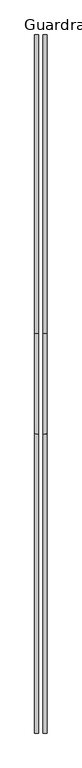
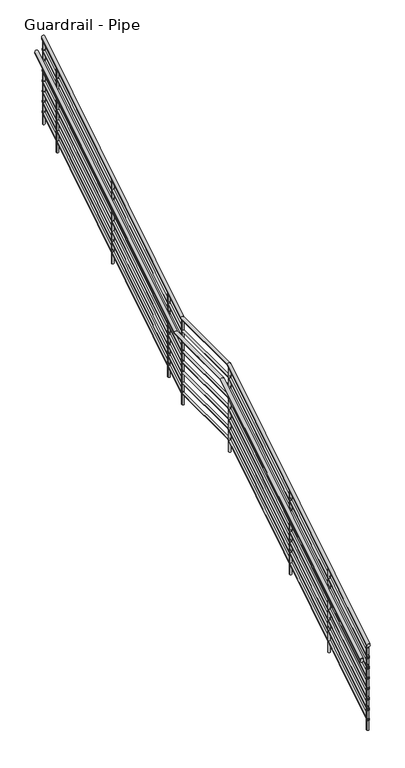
"""IFC4 building model written with IfcOpenShell, lengths in millimetres: railing geometry, Guardrail - Pipe."""

from ifc_helpers import new_model, si_unit, point, frame, frame_2d, origin, place, context, project, spatial, circle_curve, ellipse_curve, trimmed, segment, composite_curve, outline, extrude, source, transform, mapped, element, save
from ifc_brep_helpers import plane_surface, cylinder_surface, advanced_brep


def guardrail_pipe_ee13584f(model_context):
    return source(origin(), model_context, "Body", "SolidModel", [
        advanced_brep(
        [(-3304.9939612, -3668.290357, 1218.5231361), (-3343.0939612, -3668.290357, 1218.5231361), (-3304.9939612, -868.8389295, 2963.6357143), (-3343.0939612, -868.8389295, 2963.6357143), (-3304.9939612, 70.9610705, 2963.6357143), (-3343.0939612, 70.9610705, 2963.6357143), (-3304.9939612, 2859.509643, 4701.9517075), (-3343.0939612, 2859.509643, 4701.9517075)],
        [
            (0, 1, ellipse_curve(frame((-3324.0439612, -3668.290357, 1218.5231361), z_axis=(0.0, -1.0, 0.0), x_axis=(0.0, 0.0, -1.0)), 22.4482925, 19.05)),
            (1, 0, ellipse_curve(frame((-3324.0439612, -3668.290357, 1218.5231361), z_axis=(0.0, -1.0, 0.0), x_axis=(0.0, 0.0, -1.0)), 22.4482925, 19.05)),
            (0, 2),
            (2, 3, ellipse_curve(frame((-3324.0439612, -868.8389295, 2963.6357143), z_axis=(0.0, -0.9614096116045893, -0.2751209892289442), x_axis=(0.0, 0.27512098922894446, -0.9614096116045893)), 19.8146552, 19.05)),
            (3, 1),
            (3, 2, ellipse_curve(frame((-3324.0439612, -868.8389295, 2963.6357143), z_axis=(0.0, -0.9614096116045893, -0.2751209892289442), x_axis=(0.0, 0.27512098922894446, -0.9614096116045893)), 19.8146552, 19.05)),
            (2, 4),
            (4, 5, ellipse_curve(frame((-3324.0439612, 70.9610705, 2963.6357143), z_axis=(0.0, -0.9614096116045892, -0.2751209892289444), x_axis=(0.0, -0.27512098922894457, 0.9614096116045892)), 19.8146552, 19.05)),
            (5, 3),
            (5, 4, ellipse_curve(frame((-3324.0439612, 70.9610705, 2963.6357143), z_axis=(0.0, -0.9614096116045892, -0.2751209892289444), x_axis=(0.0, -0.27512098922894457, 0.9614096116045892)), 19.8146552, 19.05)),
            (6, 7, ellipse_curve(frame((-3324.0439612, 2859.509643, 4701.9517075), z_axis=(0.0, 1.0, 0.0), x_axis=(0.0, 0.0, -1.0)), 22.4482925, 19.05)),
            (7, 6, ellipse_curve(frame((-3324.0439612, 2859.509643, 4701.9517075), z_axis=(0.0, 1.0, 0.0), x_axis=(0.0, 0.0, -1.0)), 22.4482925, 19.05)),
            (4, 6),
            (7, 5),
        ],
        [
            plane_surface(frame((-3324.0439612, -3668.290357, 1240.9714286), z_axis=(0.0, -1.0, 0.0), x_axis=(0.0, 0.0, 1.0))),
            cylinder_surface(frame((-3324.0439612, -3658.212756, 1224.805277), z_axis=(0.0, -0.8486168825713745, -0.5290079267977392), x_axis=(-1.0, 0.0, 0.0)), 19.05),
            cylinder_surface(frame((-3324.0439612, -874.290357, 2963.6357143), z_axis=(0.0, -1.0, 0.0), x_axis=(-1.0, 0.0, 0.0)), 19.05),
            plane_surface(frame((-3324.0439612, 2859.509643, 4724.4), z_axis=(0.0, 1.0, 0.0), x_axis=(0.0, 0.0, 1.0))),
            cylinder_surface(frame((-3324.0439612, 75.587244, 2966.5195627), z_axis=(0.0, -0.8486168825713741, -0.5290079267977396), x_axis=(-1.0, 0.0, 0.0)), 19.05),
        ],
        [
            (0, [[1, 2]]),
            (1, [[-1, 3, 4, 5]]),
            (1, [[-2, -5, 6, -3]]),
            (2, [[-4, 7, 8, 9]]),
            (2, [[-6, -9, 10, -7]]),
            (3, [[11, 12]]),
            (4, [[-8, 13, -12, 14]]),
            (4, [[-10, -14, -11, -13]]),
        ],
    ),
        advanced_brep(
        [(-3311.3439612, -3668.290357, 1073.6059002), (-3336.7439612, -3668.290357, 1073.6059002), (-3311.3439612, -870.656072, 2817.5857143), (-3336.7439612, -870.656072, 2817.5857143), (-3311.3439612, 69.143928, 2817.5857143), (-3336.7439612, 69.143928, 2817.5857143), (-3311.3439612, 2859.509643, 4557.0344717), (-3336.7439612, 2859.509643, 4557.0344717)],
        [
            (0, 1, ellipse_curve(frame((-3324.0439612, -3668.290357, 1073.6059002), z_axis=(0.0, -1.0, 0.0), x_axis=(0.0, 0.0, -1.0)), 14.9655283, 12.7)),
            (1, 0, ellipse_curve(frame((-3324.0439612, -3668.290357, 1073.6059002), z_axis=(0.0, -1.0, 0.0), x_axis=(0.0, 0.0, -1.0)), 14.9655283, 12.7)),
            (0, 2),
            (2, 3, ellipse_curve(frame((-3324.0439612, -870.656072, 2817.5857143), z_axis=(0.0, -0.9614096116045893, -0.2751209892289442), x_axis=(0.0, 0.27512098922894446, -0.9614096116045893)), 13.2097702, 12.7)),
            (3, 1),
            (3, 2, ellipse_curve(frame((-3324.0439612, -870.656072, 2817.5857143), z_axis=(0.0, -0.9614096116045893, -0.2751209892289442), x_axis=(0.0, 0.27512098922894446, -0.9614096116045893)), 13.2097702, 12.7)),
            (2, 4),
            (4, 5, ellipse_curve(frame((-3324.0439612, 69.143928, 2817.5857143), z_axis=(0.0, -0.9614096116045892, -0.2751209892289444), x_axis=(0.0, -0.27512098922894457, 0.9614096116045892)), 13.2097702, 12.7)),
            (5, 3),
            (5, 4, ellipse_curve(frame((-3324.0439612, 69.143928, 2817.5857143), z_axis=(0.0, -0.9614096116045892, -0.2751209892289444), x_axis=(0.0, -0.27512098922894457, 0.9614096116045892)), 13.2097702, 12.7)),
            (6, 7, ellipse_curve(frame((-3324.0439612, 2859.509643, 4557.0344717), z_axis=(0.0, 1.0, 0.0), x_axis=(0.0, 0.0, -1.0)), 14.9655283, 12.7)),
            (7, 6, ellipse_curve(frame((-3324.0439612, 2859.509643, 4557.0344717), z_axis=(0.0, 1.0, 0.0), x_axis=(0.0, 0.0, -1.0)), 14.9655283, 12.7)),
            (4, 6),
            (7, 5),
        ],
        [
            plane_surface(frame((-3324.0439612, -3668.290357, 1088.5714286), z_axis=(0.0, -1.0, 0.0), x_axis=(0.0, 0.0, 1.0))),
            cylinder_surface(frame((-3324.0439612, -3661.5719564, 1077.7939942), z_axis=(0.0, -0.8486168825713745, -0.5290079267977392), x_axis=(-1.0, 0.0, 0.0)), 12.7),
            cylinder_surface(frame((-3324.0439612, -874.290357, 2817.5857143), z_axis=(0.0, -1.0, 0.0), x_axis=(-1.0, 0.0, 0.0)), 12.7),
            plane_surface(frame((-3324.0439612, 2859.509643, 4572.0), z_axis=(0.0, 1.0, 0.0), x_axis=(0.0, 0.0, 1.0))),
            cylinder_surface(frame((-3324.0439612, 72.2280436, 2819.5082799), z_axis=(0.0, -0.8486168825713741, -0.5290079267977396), x_axis=(-1.0, 0.0, 0.0)), 12.7),
        ],
        [
            (0, [[1, 2]]),
            (1, [[-1, 3, 4, 5]]),
            (1, [[-2, -5, 6, -3]]),
            (2, [[-4, 7, 8, 9]]),
            (2, [[-6, -9, 10, -7]]),
            (3, [[11, 12]]),
            (4, [[-8, 13, -12, 14]]),
            (4, [[-10, -14, -11, -13]]),
        ],
    ),
        advanced_brep(
        [(-3381.1939612, -3668.290357, 1066.1231361), (-3419.2939612, -3668.290357, 1066.1231361), (-3381.1939612, -868.8389295, 2811.2357143), (-3419.2939612, -868.8389295, 2811.2357143), (-3381.1939612, 70.9610705, 2811.2357143), (-3419.2939612, 70.9610705, 2811.2357143), (-3381.1939612, 2859.509643, 4549.5517075), (-3419.2939612, 2859.509643, 4549.5517075)],
        [
            (0, 1, ellipse_curve(frame((-3400.2439612, -3668.290357, 1066.1231361), z_axis=(0.0, -1.0, 0.0), x_axis=(0.0, 0.0, -1.0)), 22.4482925, 19.05)),
            (1, 0, ellipse_curve(frame((-3400.2439612, -3668.290357, 1066.1231361), z_axis=(0.0, -1.0, 0.0), x_axis=(0.0, 0.0, -1.0)), 22.4482925, 19.05)),
            (0, 2),
            (2, 3, ellipse_curve(frame((-3400.2439612, -868.8389295, 2811.2357143), z_axis=(0.0, -0.9614096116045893, -0.2751209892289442), x_axis=(0.0, 0.27512098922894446, -0.9614096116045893)), 19.8146552, 19.05)),
            (3, 1),
            (3, 2, ellipse_curve(frame((-3400.2439612, -868.8389295, 2811.2357143), z_axis=(0.0, -0.9614096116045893, -0.2751209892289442), x_axis=(0.0, 0.27512098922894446, -0.9614096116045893)), 19.8146552, 19.05)),
            (2, 4),
            (4, 5, ellipse_curve(frame((-3400.2439612, 70.9610705, 2811.2357143), z_axis=(0.0, -0.9614096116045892, -0.2751209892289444), x_axis=(0.0, -0.27512098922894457, 0.9614096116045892)), 19.8146552, 19.05)),
            (5, 3),
            (5, 4, ellipse_curve(frame((-3400.2439612, 70.9610705, 2811.2357143), z_axis=(0.0, -0.9614096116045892, -0.2751209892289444), x_axis=(0.0, -0.27512098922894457, 0.9614096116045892)), 19.8146552, 19.05)),
            (6, 7, ellipse_curve(frame((-3400.2439612, 2859.509643, 4549.5517075), z_axis=(0.0, 1.0, 0.0), x_axis=(0.0, 0.0, -1.0)), 22.4482925, 19.05)),
            (7, 6, ellipse_curve(frame((-3400.2439612, 2859.509643, 4549.5517075), z_axis=(0.0, 1.0, 0.0), x_axis=(0.0, 0.0, -1.0)), 22.4482925, 19.05)),
            (4, 6),
            (7, 5),
        ],
        [
            plane_surface(frame((-3400.2439612, -3668.290357, 1088.5714286), z_axis=(0.0, -1.0, 0.0), x_axis=(0.0, 0.0, 1.0))),
            cylinder_surface(frame((-3400.2439612, -3658.212756, 1072.405277), z_axis=(0.0, -0.8486168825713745, -0.5290079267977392), x_axis=(-1.0, 0.0, 0.0)), 19.05),
            cylinder_surface(frame((-3400.2439612, -874.290357, 2811.2357143), z_axis=(0.0, -1.0, 0.0), x_axis=(-1.0, 0.0, 0.0)), 19.05),
            plane_surface(frame((-3400.2439612, 2859.509643, 4572.0), z_axis=(0.0, 1.0, 0.0), x_axis=(0.0, 0.0, 1.0))),
            cylinder_surface(frame((-3400.2439612, 75.587244, 2814.1195627), z_axis=(0.0, -0.8486168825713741, -0.5290079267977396), x_axis=(-1.0, 0.0, 0.0)), 19.05),
        ],
        [
            (0, [[1, 2]]),
            (1, [[-1, 3, 4, 5]]),
            (1, [[-2, -5, 6, -3]]),
            (2, [[-4, 7, 8, 9]]),
            (2, [[-6, -9, 10, -7]]),
            (3, [[11, 12]]),
            (4, [[-8, 13, -12, 14]]),
            (4, [[-10, -14, -11, -13]]),
        ],
    ),
        advanced_brep(
        [(-3311.3439612, -3668.290357, 946.6059002), (-3336.7439612, -3668.290357, 946.6059002), (-3311.3439612, -870.656072, 2690.5857143), (-3336.7439612, -870.656072, 2690.5857143), (-3311.3439612, 69.143928, 2690.5857143), (-3336.7439612, 69.143928, 2690.5857143), (-3311.3439612, 2859.509643, 4430.0344717), (-3336.7439612, 2859.509643, 4430.0344717)],
        [
            (0, 1, ellipse_curve(frame((-3324.0439612, -3668.290357, 946.6059002), z_axis=(0.0, -1.0, 0.0), x_axis=(0.0, 0.0, -1.0)), 14.9655283, 12.7)),
            (1, 0, ellipse_curve(frame((-3324.0439612, -3668.290357, 946.6059002), z_axis=(0.0, -1.0, 0.0), x_axis=(0.0, 0.0, -1.0)), 14.9655283, 12.7)),
            (0, 2),
            (2, 3, ellipse_curve(frame((-3324.0439612, -870.656072, 2690.5857143), z_axis=(0.0, -0.9614096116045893, -0.2751209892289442), x_axis=(0.0, 0.27512098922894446, -0.9614096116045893)), 13.2097702, 12.7)),
            (3, 1),
            (3, 2, ellipse_curve(frame((-3324.0439612, -870.656072, 2690.5857143), z_axis=(0.0, -0.9614096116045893, -0.2751209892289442), x_axis=(0.0, 0.27512098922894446, -0.9614096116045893)), 13.2097702, 12.7)),
            (2, 4),
            (4, 5, ellipse_curve(frame((-3324.0439612, 69.143928, 2690.5857143), z_axis=(0.0, -0.9614096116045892, -0.2751209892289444), x_axis=(0.0, -0.27512098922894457, 0.9614096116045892)), 13.2097702, 12.7)),
            (5, 3),
            (5, 4, ellipse_curve(frame((-3324.0439612, 69.143928, 2690.5857143), z_axis=(0.0, -0.9614096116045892, -0.2751209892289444), x_axis=(0.0, -0.27512098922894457, 0.9614096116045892)), 13.2097702, 12.7)),
            (6, 7, ellipse_curve(frame((-3324.0439612, 2859.509643, 4430.0344717), z_axis=(0.0, 1.0, 0.0), x_axis=(0.0, 0.0, -1.0)), 14.9655283, 12.7)),
            (7, 6, ellipse_curve(frame((-3324.0439612, 2859.509643, 4430.0344717), z_axis=(0.0, 1.0, 0.0), x_axis=(0.0, 0.0, -1.0)), 14.9655283, 12.7)),
            (4, 6),
            (7, 5),
        ],
        [
            plane_surface(frame((-3324.0439612, -3668.290357, 961.5714286), z_axis=(0.0, -1.0, 0.0), x_axis=(0.0, 0.0, 1.0))),
            cylinder_surface(frame((-3324.0439612, -3661.5719564, 950.7939942), z_axis=(0.0, -0.8486168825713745, -0.5290079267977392), x_axis=(-1.0, 0.0, 0.0)), 12.7),
            cylinder_surface(frame((-3324.0439612, -874.290357, 2690.5857143), z_axis=(0.0, -1.0, 0.0), x_axis=(-1.0, 0.0, 0.0)), 12.7),
            plane_surface(frame((-3324.0439612, 2859.509643, 4445.0), z_axis=(0.0, 1.0, 0.0), x_axis=(0.0, 0.0, 1.0))),
            cylinder_surface(frame((-3324.0439612, 72.2280436, 2692.5082799), z_axis=(0.0, -0.8486168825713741, -0.5290079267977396), x_axis=(-1.0, 0.0, 0.0)), 12.7),
        ],
        [
            (0, [[1, 2]]),
            (1, [[-1, 3, 4, 5]]),
            (1, [[-2, -5, 6, -3]]),
            (2, [[-4, 7, 8, 9]]),
            (2, [[-6, -9, 10, -7]]),
            (3, [[11, 12]]),
            (4, [[-8, 13, -12, 14]]),
            (4, [[-10, -14, -11, -13]]),
        ],
    ),
        advanced_brep(
        [(-3311.3439612, -3668.290357, 819.6059002), (-3336.7439612, -3668.290357, 819.6059002), (-3311.3439612, -870.656072, 2563.5857143), (-3336.7439612, -870.656072, 2563.5857143), (-3311.3439612, 69.143928, 2563.5857143), (-3336.7439612, 69.143928, 2563.5857143), (-3311.3439612, 2859.509643, 4303.0344717), (-3336.7439612, 2859.509643, 4303.0344717)],
        [
            (0, 1, ellipse_curve(frame((-3324.0439612, -3668.290357, 819.6059002), z_axis=(0.0, -1.0, 0.0), x_axis=(0.0, 0.0, -1.0)), 14.9655283, 12.7)),
            (1, 0, ellipse_curve(frame((-3324.0439612, -3668.290357, 819.6059002), z_axis=(0.0, -1.0, 0.0), x_axis=(0.0, 0.0, -1.0)), 14.9655283, 12.7)),
            (0, 2),
            (2, 3, ellipse_curve(frame((-3324.0439612, -870.656072, 2563.5857143), z_axis=(0.0, -0.9614096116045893, -0.2751209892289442), x_axis=(0.0, 0.27512098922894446, -0.9614096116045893)), 13.2097702, 12.7)),
            (3, 1),
            (3, 2, ellipse_curve(frame((-3324.0439612, -870.656072, 2563.5857143), z_axis=(0.0, -0.9614096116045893, -0.2751209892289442), x_axis=(0.0, 0.27512098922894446, -0.9614096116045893)), 13.2097702, 12.7)),
            (2, 4),
            (4, 5, ellipse_curve(frame((-3324.0439612, 69.143928, 2563.5857143), z_axis=(0.0, -0.9614096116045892, -0.2751209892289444), x_axis=(0.0, -0.27512098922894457, 0.9614096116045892)), 13.2097702, 12.7)),
            (5, 3),
            (5, 4, ellipse_curve(frame((-3324.0439612, 69.143928, 2563.5857143), z_axis=(0.0, -0.9614096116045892, -0.2751209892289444), x_axis=(0.0, -0.27512098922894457, 0.9614096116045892)), 13.2097702, 12.7)),
            (6, 7, ellipse_curve(frame((-3324.0439612, 2859.509643, 4303.0344717), z_axis=(0.0, 1.0, 0.0), x_axis=(0.0, 0.0, -1.0)), 14.9655283, 12.7)),
            (7, 6, ellipse_curve(frame((-3324.0439612, 2859.509643, 4303.0344717), z_axis=(0.0, 1.0, 0.0), x_axis=(0.0, 0.0, -1.0)), 14.9655283, 12.7)),
            (4, 6),
            (7, 5),
        ],
        [
            plane_surface(frame((-3324.0439612, -3668.290357, 834.5714286), z_axis=(0.0, -1.0, 0.0), x_axis=(0.0, 0.0, 1.0))),
            cylinder_surface(frame((-3324.0439612, -3661.5719564, 823.7939942), z_axis=(0.0, -0.8486168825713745, -0.5290079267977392), x_axis=(-1.0, 0.0, 0.0)), 12.7),
            cylinder_surface(frame((-3324.0439612, -874.290357, 2563.5857143), z_axis=(0.0, -1.0, 0.0), x_axis=(-1.0, 0.0, 0.0)), 12.7),
            plane_surface(frame((-3324.0439612, 2859.509643, 4318.0), z_axis=(0.0, 1.0, 0.0), x_axis=(0.0, 0.0, 1.0))),
            cylinder_surface(frame((-3324.0439612, 72.2280436, 2565.5082799), z_axis=(0.0, -0.8486168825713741, -0.5290079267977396), x_axis=(-1.0, 0.0, 0.0)), 12.7),
        ],
        [
            (0, [[1, 2]]),
            (1, [[-1, 3, 4, 5]]),
            (1, [[-2, -5, 6, -3]]),
            (2, [[-4, 7, 8, 9]]),
            (2, [[-6, -9, 10, -7]]),
            (3, [[11, 12]]),
            (4, [[-8, 13, -12, 14]]),
            (4, [[-10, -14, -11, -13]]),
        ],
    ),
        advanced_brep(
        [(-3311.3439612, -3668.290357, 692.6059002), (-3336.7439612, -3668.290357, 692.6059002), (-3311.3439612, -870.656072, 2436.5857143), (-3336.7439612, -870.656072, 2436.5857143), (-3311.3439612, 69.143928, 2436.5857143), (-3336.7439612, 69.143928, 2436.5857143), (-3311.3439612, 2859.509643, 4176.0344717), (-3336.7439612, 2859.509643, 4176.0344717)],
        [
            (0, 1, ellipse_curve(frame((-3324.0439612, -3668.290357, 692.6059002), z_axis=(0.0, -1.0, 0.0), x_axis=(0.0, 0.0, -1.0)), 14.9655283, 12.7)),
            (1, 0, ellipse_curve(frame((-3324.0439612, -3668.290357, 692.6059002), z_axis=(0.0, -1.0, 0.0), x_axis=(0.0, 0.0, -1.0)), 14.9655283, 12.7)),
            (0, 2),
            (2, 3, ellipse_curve(frame((-3324.0439612, -870.656072, 2436.5857143), z_axis=(0.0, -0.9614096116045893, -0.2751209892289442), x_axis=(0.0, 0.27512098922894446, -0.9614096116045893)), 13.2097702, 12.7)),
            (3, 1),
            (3, 2, ellipse_curve(frame((-3324.0439612, -870.656072, 2436.5857143), z_axis=(0.0, -0.9614096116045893, -0.2751209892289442), x_axis=(0.0, 0.27512098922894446, -0.9614096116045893)), 13.2097702, 12.7)),
            (2, 4),
            (4, 5, ellipse_curve(frame((-3324.0439612, 69.143928, 2436.5857143), z_axis=(0.0, -0.9614096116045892, -0.2751209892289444), x_axis=(0.0, -0.27512098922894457, 0.9614096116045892)), 13.2097702, 12.7)),
            (5, 3),
            (5, 4, ellipse_curve(frame((-3324.0439612, 69.143928, 2436.5857143), z_axis=(0.0, -0.9614096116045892, -0.2751209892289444), x_axis=(0.0, -0.27512098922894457, 0.9614096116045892)), 13.2097702, 12.7)),
            (6, 7, ellipse_curve(frame((-3324.0439612, 2859.509643, 4176.0344717), z_axis=(0.0, 1.0, 0.0), x_axis=(0.0, 0.0, -1.0)), 14.9655283, 12.7)),
            (7, 6, ellipse_curve(frame((-3324.0439612, 2859.509643, 4176.0344717), z_axis=(0.0, 1.0, 0.0), x_axis=(0.0, 0.0, -1.0)), 14.9655283, 12.7)),
            (4, 6),
            (7, 5),
        ],
        [
            plane_surface(frame((-3324.0439612, -3668.290357, 707.5714286), z_axis=(0.0, -1.0, 0.0), x_axis=(0.0, 0.0, 1.0))),
            cylinder_surface(frame((-3324.0439612, -3661.5719564, 696.7939942), z_axis=(0.0, -0.8486168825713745, -0.5290079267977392), x_axis=(-1.0, 0.0, 0.0)), 12.7),
            cylinder_surface(frame((-3324.0439612, -874.290357, 2436.5857143), z_axis=(0.0, -1.0, 0.0), x_axis=(-1.0, 0.0, 0.0)), 12.7),
            plane_surface(frame((-3324.0439612, 2859.509643, 4191.0), z_axis=(0.0, 1.0, 0.0), x_axis=(0.0, 0.0, 1.0))),
            cylinder_surface(frame((-3324.0439612, 72.2280436, 2438.5082799), z_axis=(0.0, -0.8486168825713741, -0.5290079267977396), x_axis=(-1.0, 0.0, 0.0)), 12.7),
        ],
        [
            (0, [[1, 2]]),
            (1, [[-1, 3, 4, 5]]),
            (1, [[-2, -5, 6, -3]]),
            (2, [[-4, 7, 8, 9]]),
            (2, [[-6, -9, 10, -7]]),
            (3, [[11, 12]]),
            (4, [[-8, 13, -12, 14]]),
            (4, [[-10, -14, -11, -13]]),
        ],
    ),
        advanced_brep(
        [(-3311.3439612, -3668.290357, 565.6059002), (-3336.7439612, -3668.290357, 565.6059002), (-3311.3439612, -870.656072, 2309.5857143), (-3336.7439612, -870.656072, 2309.5857143), (-3311.3439612, 69.143928, 2309.5857143), (-3336.7439612, 69.143928, 2309.5857143), (-3311.3439612, 2859.509643, 4049.0344717), (-3336.7439612, 2859.509643, 4049.0344717)],
        [
            (0, 1, ellipse_curve(frame((-3324.0439612, -3668.290357, 565.6059002), z_axis=(0.0, -1.0, 0.0), x_axis=(0.0, 0.0, -1.0)), 14.9655283, 12.7)),
            (1, 0, ellipse_curve(frame((-3324.0439612, -3668.290357, 565.6059002), z_axis=(0.0, -1.0, 0.0), x_axis=(0.0, 0.0, -1.0)), 14.9655283, 12.7)),
            (0, 2),
            (2, 3, ellipse_curve(frame((-3324.0439612, -870.656072, 2309.5857143), z_axis=(0.0, -0.9614096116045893, -0.2751209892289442), x_axis=(0.0, 0.27512098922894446, -0.9614096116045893)), 13.2097702, 12.7)),
            (3, 1),
            (3, 2, ellipse_curve(frame((-3324.0439612, -870.656072, 2309.5857143), z_axis=(0.0, -0.9614096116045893, -0.2751209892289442), x_axis=(0.0, 0.27512098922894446, -0.9614096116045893)), 13.2097702, 12.7)),
            (2, 4),
            (4, 5, ellipse_curve(frame((-3324.0439612, 69.143928, 2309.5857143), z_axis=(0.0, -0.9614096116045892, -0.2751209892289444), x_axis=(0.0, -0.27512098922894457, 0.9614096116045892)), 13.2097702, 12.7)),
            (5, 3),
            (5, 4, ellipse_curve(frame((-3324.0439612, 69.143928, 2309.5857143), z_axis=(0.0, -0.9614096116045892, -0.2751209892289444), x_axis=(0.0, -0.27512098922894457, 0.9614096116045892)), 13.2097702, 12.7)),
            (6, 7, ellipse_curve(frame((-3324.0439612, 2859.509643, 4049.0344717), z_axis=(0.0, 1.0, 0.0), x_axis=(0.0, 0.0, -1.0)), 14.9655283, 12.7)),
            (7, 6, ellipse_curve(frame((-3324.0439612, 2859.509643, 4049.0344717), z_axis=(0.0, 1.0, 0.0), x_axis=(0.0, 0.0, -1.0)), 14.9655283, 12.7)),
            (4, 6),
            (7, 5),
        ],
        [
            plane_surface(frame((-3324.0439612, -3668.290357, 580.5714286), z_axis=(0.0, -1.0, 0.0), x_axis=(0.0, 0.0, 1.0))),
            cylinder_surface(frame((-3324.0439612, -3661.5719564, 569.7939942), z_axis=(0.0, -0.8486168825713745, -0.5290079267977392), x_axis=(-1.0, 0.0, 0.0)), 12.7),
            cylinder_surface(frame((-3324.0439612, -874.290357, 2309.5857143), z_axis=(0.0, -1.0, 0.0), x_axis=(-1.0, 0.0, 0.0)), 12.7),
            plane_surface(frame((-3324.0439612, 2859.509643, 4064.0), z_axis=(0.0, 1.0, 0.0), x_axis=(0.0, 0.0, 1.0))),
            cylinder_surface(frame((-3324.0439612, 72.2280436, 2311.5082799), z_axis=(0.0, -0.8486168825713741, -0.5290079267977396), x_axis=(-1.0, 0.0, 0.0)), 12.7),
        ],
        [
            (0, [[1, 2]]),
            (1, [[-1, 3, 4, 5]]),
            (1, [[-2, -5, 6, -3]]),
            (2, [[-4, 7, 8, 9]]),
            (2, [[-6, -9, 10, -7]]),
            (3, [[11, 12]]),
            (4, [[-8, 13, -12, 14]]),
            (4, [[-10, -14, -11, -13]]),
        ],
    ),
        advanced_brep(
        [(-3311.3439612, -3668.290357, 438.6059002), (-3336.7439612, -3668.290357, 438.6059002), (-3311.3439612, -870.656072, 2182.5857143), (-3336.7439612, -870.656072, 2182.5857143), (-3311.3439612, 69.143928, 2182.5857143), (-3336.7439612, 69.143928, 2182.5857143), (-3311.3439612, 2859.509643, 3922.0344717), (-3336.7439612, 2859.509643, 3922.0344717)],
        [
            (0, 1, ellipse_curve(frame((-3324.0439612, -3668.290357, 438.6059002), z_axis=(0.0, -1.0, 0.0), x_axis=(0.0, 0.0, -1.0)), 14.9655283, 12.7)),
            (1, 0, ellipse_curve(frame((-3324.0439612, -3668.290357, 438.6059002), z_axis=(0.0, -1.0, 0.0), x_axis=(0.0, 0.0, -1.0)), 14.9655283, 12.7)),
            (0, 2),
            (2, 3, ellipse_curve(frame((-3324.0439612, -870.656072, 2182.5857143), z_axis=(0.0, -0.9614096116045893, -0.2751209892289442), x_axis=(0.0, 0.27512098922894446, -0.9614096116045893)), 13.2097702, 12.7)),
            (3, 1),
            (3, 2, ellipse_curve(frame((-3324.0439612, -870.656072, 2182.5857143), z_axis=(0.0, -0.9614096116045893, -0.2751209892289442), x_axis=(0.0, 0.27512098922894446, -0.9614096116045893)), 13.2097702, 12.7)),
            (2, 4),
            (4, 5, ellipse_curve(frame((-3324.0439612, 69.143928, 2182.5857143), z_axis=(0.0, -0.9614096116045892, -0.2751209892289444), x_axis=(0.0, -0.27512098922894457, 0.9614096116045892)), 13.2097702, 12.7)),
            (5, 3),
            (5, 4, ellipse_curve(frame((-3324.0439612, 69.143928, 2182.5857143), z_axis=(0.0, -0.9614096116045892, -0.2751209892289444), x_axis=(0.0, -0.27512098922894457, 0.9614096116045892)), 13.2097702, 12.7)),
            (6, 7, ellipse_curve(frame((-3324.0439612, 2859.509643, 3922.0344717), z_axis=(0.0, 1.0, 0.0), x_axis=(0.0, 0.0, -1.0)), 14.9655283, 12.7)),
            (7, 6, ellipse_curve(frame((-3324.0439612, 2859.509643, 3922.0344717), z_axis=(0.0, 1.0, 0.0), x_axis=(0.0, 0.0, -1.0)), 14.9655283, 12.7)),
            (4, 6),
            (7, 5),
        ],
        [
            plane_surface(frame((-3324.0439612, -3668.290357, 453.5714286), z_axis=(0.0, -1.0, 0.0), x_axis=(0.0, 0.0, 1.0))),
            cylinder_surface(frame((-3324.0439612, -3661.5719564, 442.7939942), z_axis=(0.0, -0.8486168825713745, -0.5290079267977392), x_axis=(-1.0, 0.0, 0.0)), 12.7),
            cylinder_surface(frame((-3324.0439612, -874.290357, 2182.5857143), z_axis=(0.0, -1.0, 0.0), x_axis=(-1.0, 0.0, 0.0)), 12.7),
            plane_surface(frame((-3324.0439612, 2859.509643, 3937.0), z_axis=(0.0, 1.0, 0.0), x_axis=(0.0, 0.0, 1.0))),
            cylinder_surface(frame((-3324.0439612, 72.2280436, 2184.5082799), z_axis=(0.0, -0.8486168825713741, -0.5290079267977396), x_axis=(-1.0, 0.0, 0.0)), 12.7),
        ],
        [
            (0, [[1, 2]]),
            (1, [[-1, 3, 4, 5]]),
            (1, [[-2, -5, 6, -3]]),
            (2, [[-4, 7, 8, 9]]),
            (2, [[-6, -9, 10, -7]]),
            (3, [[11, 12]]),
            (4, [[-8, 13, -12, 14]]),
            (4, [[-10, -14, -11, -13]]),
        ],
    ),
        advanced_brep(
        [(-3311.3439612, -3668.290357, 311.6059002), (-3336.7439612, -3668.290357, 311.6059002), (-3311.3439612, -870.656072, 2055.5857143), (-3336.7439612, -870.656072, 2055.5857143), (-3311.3439612, 69.143928, 2055.5857143), (-3336.7439612, 69.143928, 2055.5857143), (-3311.3439612, 2859.509643, 3795.0344717), (-3336.7439612, 2859.509643, 3795.0344717)],
        [
            (0, 1, ellipse_curve(frame((-3324.0439612, -3668.290357, 311.6059002), z_axis=(0.0, -1.0, 0.0), x_axis=(0.0, 0.0, -1.0)), 14.9655283, 12.7)),
            (1, 0, ellipse_curve(frame((-3324.0439612, -3668.290357, 311.6059002), z_axis=(0.0, -1.0, 0.0), x_axis=(0.0, 0.0, -1.0)), 14.9655283, 12.7)),
            (0, 2),
            (2, 3, ellipse_curve(frame((-3324.0439612, -870.656072, 2055.5857143), z_axis=(0.0, -0.9614096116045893, -0.2751209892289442), x_axis=(0.0, 0.27512098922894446, -0.9614096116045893)), 13.2097702, 12.7)),
            (3, 1),
            (3, 2, ellipse_curve(frame((-3324.0439612, -870.656072, 2055.5857143), z_axis=(0.0, -0.9614096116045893, -0.2751209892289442), x_axis=(0.0, 0.27512098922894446, -0.9614096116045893)), 13.2097702, 12.7)),
            (2, 4),
            (4, 5, ellipse_curve(frame((-3324.0439612, 69.143928, 2055.5857143), z_axis=(0.0, -0.9614096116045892, -0.2751209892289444), x_axis=(0.0, -0.27512098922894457, 0.9614096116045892)), 13.2097702, 12.7)),
            (5, 3),
            (5, 4, ellipse_curve(frame((-3324.0439612, 69.143928, 2055.5857143), z_axis=(0.0, -0.9614096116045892, -0.2751209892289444), x_axis=(0.0, -0.27512098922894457, 0.9614096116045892)), 13.2097702, 12.7)),
            (6, 7, ellipse_curve(frame((-3324.0439612, 2859.509643, 3795.0344717), z_axis=(0.0, 1.0, 0.0), x_axis=(0.0, 0.0, -1.0)), 14.9655283, 12.7)),
            (7, 6, ellipse_curve(frame((-3324.0439612, 2859.509643, 3795.0344717), z_axis=(0.0, 1.0, 0.0), x_axis=(0.0, 0.0, -1.0)), 14.9655283, 12.7)),
            (4, 6),
            (7, 5),
        ],
        [
            plane_surface(frame((-3324.0439612, -3668.290357, 326.5714286), z_axis=(0.0, -1.0, 0.0), x_axis=(0.0, 0.0, 1.0))),
            cylinder_surface(frame((-3324.0439612, -3661.5719564, 315.7939942), z_axis=(0.0, -0.8486168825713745, -0.5290079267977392), x_axis=(-1.0, 0.0, 0.0)), 12.7),
            cylinder_surface(frame((-3324.0439612, -874.290357, 2055.5857143), z_axis=(0.0, -1.0, 0.0), x_axis=(-1.0, 0.0, 0.0)), 12.7),
            plane_surface(frame((-3324.0439612, 2859.509643, 3810.0), z_axis=(0.0, 1.0, 0.0), x_axis=(0.0, 0.0, 1.0))),
            cylinder_surface(frame((-3324.0439612, 72.2280436, 2057.5082799), z_axis=(0.0, -0.8486168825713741, -0.5290079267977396), x_axis=(-1.0, 0.0, 0.0)), 12.7),
        ],
        [
            (0, [[1, 2]]),
            (1, [[-1, 3, 4, 5]]),
            (1, [[-2, -5, 6, -3]]),
            (2, [[-4, 7, 8, 9]]),
            (2, [[-6, -9, 10, -7]]),
            (3, [[11, 12]]),
            (4, [[-8, 13, -12, 14]]),
            (4, [[-10, -14, -11, -13]]),
        ],
    ),
        advanced_brep(
        [(-3311.3439612, 2847.1280585, 3649.8816097), (-3336.7439612, 2847.1280585, 3649.8816097), (-3336.7439612, 2847.1280585, 4671.7850247), (-3311.3439612, 2847.1280585, 4671.7850247)],
        [
            (0, 1, circle_curve(frame((-3324.0439612, 2847.1280585, 3649.8816097), z_axis=(0.0, 0.0, -1.0), x_axis=(-1.0, 0.0, 0.0)), 12.7)),
            (1, 0, circle_curve(frame((-3324.0439612, 2847.1280585, 3649.8816097), z_axis=(0.0, 0.0, -1.0), x_axis=(-1.0, 0.0, 0.0)), 12.7)),
            (1, 2),
            (2, 3, ellipse_curve(frame((-3324.0439612, 2847.1280585, 4671.7850247), z_axis=(0.0, 0.5290079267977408, -0.8486168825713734), x_axis=(0.0, 0.8486168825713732, 0.5290079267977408)), 14.9655283, 12.7)),
            (3, 0),
            (3, 2, ellipse_curve(frame((-3324.0439612, 2847.1280585, 4671.7850247), z_axis=(0.0, 0.5290079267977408, -0.8486168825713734), x_axis=(0.0, 0.8486168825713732, 0.5290079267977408)), 14.9655283, 12.7)),
        ],
        [
            plane_surface(frame((-3336.7439612, 2847.1280585, 3649.8816097), z_axis=(0.0, 0.0, -1.0), x_axis=(0.0, 1.0, 0.0))),
            cylinder_surface(frame((-3324.0439612, 2847.1280585, 3649.8816097), z_axis=(0.0, 0.0, 1.0), x_axis=(-1.0, 0.0, 0.0)), 12.7),
            plane_surface(frame((-3371.2697911, 2882.0530585, 4693.5564532), z_axis=(0.0, -0.5290079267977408, 0.8486168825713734), x_axis=(1.0, 0.0, 0.0))),
        ],
        [
            (0, [[1, 2]]),
            (1, [[-2, 3, 4, 5]]),
            (1, [[-1, -5, 6, -3]]),
            (2, [[-4, -6]]),
        ],
    ),
        advanced_brep(
        [(-3311.3439612, 2567.7280585, 3475.7101811), (-3336.7439612, 2567.7280585, 3475.7101811), (-3336.7439612, 2567.7280585, 4497.6135961), (-3311.3439612, 2567.7280585, 4497.6135961)],
        [
            (0, 1, circle_curve(frame((-3324.0439612, 2567.7280585, 3475.7101811), z_axis=(0.0, 0.0, -1.0), x_axis=(-1.0, 0.0, 0.0)), 12.7)),
            (1, 0, circle_curve(frame((-3324.0439612, 2567.7280585, 3475.7101811), z_axis=(0.0, 0.0, -1.0), x_axis=(-1.0, 0.0, 0.0)), 12.7)),
            (1, 2),
            (2, 3, ellipse_curve(frame((-3324.0439612, 2567.7280585, 4497.6135961), z_axis=(0.0, 0.5290079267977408, -0.8486168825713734), x_axis=(0.0, 0.8486168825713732, 0.5290079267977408)), 14.9655283, 12.7)),
            (3, 0),
            (3, 2, ellipse_curve(frame((-3324.0439612, 2567.7280585, 4497.6135961), z_axis=(0.0, 0.5290079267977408, -0.8486168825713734), x_axis=(0.0, 0.8486168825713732, 0.5290079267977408)), 14.9655283, 12.7)),
        ],
        [
            plane_surface(frame((-3336.7439612, 2567.7280585, 3475.7101811), z_axis=(0.0, 0.0, -1.0), x_axis=(0.0, 1.0, 0.0))),
            cylinder_surface(frame((-3324.0439612, 2567.7280585, 3475.7101811), z_axis=(0.0, 0.0, 1.0), x_axis=(-1.0, 0.0, 0.0)), 12.7),
            plane_surface(frame((-3371.2697911, 2602.6530585, 4519.3850247), z_axis=(0.0, -0.5290079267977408, 0.8486168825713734), x_axis=(1.0, 0.0, 0.0))),
        ],
        [
            (0, [[1, 2]]),
            (1, [[-2, 3, 4, 5]]),
            (1, [[-1, -5, 6, -3]]),
            (2, [[-4, -6]]),
        ],
    ),
        advanced_brep(
        [(-3311.3439612, 1462.509643, 2786.7428571), (-3336.7439612, 1462.509643, 2786.7428571), (-3336.7439612, 1462.509643, 3808.6462721), (-3311.3439612, 1462.509643, 3808.6462721)],
        [
            (0, 1, circle_curve(frame((-3324.0439612, 1462.509643, 2786.7428571), z_axis=(0.0, 0.0, -1.0), x_axis=(-1.0, 0.0, 0.0)), 12.7)),
            (1, 0, circle_curve(frame((-3324.0439612, 1462.509643, 2786.7428571), z_axis=(0.0, 0.0, -1.0), x_axis=(-1.0, 0.0, 0.0)), 12.7)),
            (1, 2),
            (2, 3, ellipse_curve(frame((-3324.0439612, 1462.509643, 3808.6462721), z_axis=(0.0, 0.5290079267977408, -0.8486168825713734), x_axis=(0.0, 0.8486168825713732, 0.5290079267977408)), 14.9655283, 12.7)),
            (3, 0),
            (3, 2, ellipse_curve(frame((-3324.0439612, 1462.509643, 3808.6462721), z_axis=(0.0, 0.5290079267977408, -0.8486168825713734), x_axis=(0.0, 0.8486168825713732, 0.5290079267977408)), 14.9655283, 12.7)),
        ],
        [
            plane_surface(frame((-3336.7439612, 1462.509643, 2786.7428571), z_axis=(0.0, 0.0, -1.0), x_axis=(0.0, 1.0, 0.0))),
            cylinder_surface(frame((-3324.0439612, 1462.509643, 2786.7428571), z_axis=(0.0, 0.0, 1.0), x_axis=(-1.0, 0.0, 0.0)), 12.7),
            plane_surface(frame((-3371.2697911, 1497.434643, 3830.4177007), z_axis=(0.0, -0.5290079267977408, 0.8486168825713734), x_axis=(1.0, 0.0, 0.0))),
        ],
        [
            (0, [[1, 2]]),
            (1, [[-2, 3, 4, 5]]),
            (1, [[-1, -5, 6, -3]]),
            (2, [[-4, -6]]),
        ],
    ),
        advanced_brep(
        [(-3311.3439612, 332.5280585, 2082.3387525), (-3336.7439612, 332.5280585, 2082.3387525), (-3336.7439612, 332.5280585, 3104.2421675), (-3311.3439612, 332.5280585, 3104.2421675)],
        [
            (0, 1, circle_curve(frame((-3324.0439612, 332.5280585, 2082.3387525), z_axis=(0.0, 0.0, -1.0), x_axis=(-1.0, 0.0, 0.0)), 12.7)),
            (1, 0, circle_curve(frame((-3324.0439612, 332.5280585, 2082.3387525), z_axis=(0.0, 0.0, -1.0), x_axis=(-1.0, 0.0, 0.0)), 12.7)),
            (1, 2),
            (2, 3, ellipse_curve(frame((-3324.0439612, 332.5280585, 3104.2421675), z_axis=(0.0, 0.5290079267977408, -0.8486168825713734), x_axis=(0.0, 0.8486168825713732, 0.5290079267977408)), 14.9655283, 12.7)),
            (3, 0),
            (3, 2, ellipse_curve(frame((-3324.0439612, 332.5280585, 3104.2421675), z_axis=(0.0, 0.5290079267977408, -0.8486168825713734), x_axis=(0.0, 0.8486168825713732, 0.5290079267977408)), 14.9655283, 12.7)),
        ],
        [
            plane_surface(frame((-3336.7439612, 332.5280585, 2082.3387525), z_axis=(0.0, 0.0, -1.0), x_axis=(0.0, 1.0, 0.0))),
            cylinder_surface(frame((-3324.0439612, 332.5280585, 2082.3387525), z_axis=(0.0, 0.0, 1.0), x_axis=(-1.0, 0.0, 0.0)), 12.7),
            plane_surface(frame((-3371.2697911, 367.4530585, 3126.0135961), z_axis=(0.0, -0.5290079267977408, 0.8486168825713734), x_axis=(1.0, 0.0, 0.0))),
        ],
        [
            (0, [[1, 2]]),
            (1, [[-2, 3, 4, 5]]),
            (1, [[-1, -5, 6, -3]]),
            (2, [[-4, -6]]),
        ],
    ),
        extrude(outline(composite_curve([segment(trimmed(circle_curve(frame_2d((-3324.0439612, 53.1280585)), 12.7), [point((-3311.3439612, 53.1280585))], [point((-3336.7439612, 53.1280585))], False, "CARTESIAN"), True, "CONTINUOUS"), segment(trimmed(circle_curve(frame_2d((-3324.0439612, 53.1280585)), 12.7), [point((-3336.7439612, 53.1280585))], [point((-3311.3439612, 53.1280585))], False, "CARTESIAN"), True, "CONTINUOUS")], self_intersect=False)), frame((0.0, 0.0, 1915.8857143), z_axis=(0.0, 0.0, 1.0), x_axis=(1.0, 0.0, 0.0)), (0.0, 0.0, 1.0), 1028.7),
        advanced_brep(
        [(-3311.3439612, -886.6719415, 1908.167324), (-3336.7439612, -886.6719415, 1908.167324), (-3336.7439612, -886.6719415, 2930.070739), (-3311.3439612, -886.6719415, 2930.070739)],
        [
            (0, 1, circle_curve(frame((-3324.0439612, -886.6719415, 1908.167324), z_axis=(0.0, 0.0, -1.0), x_axis=(-1.0, 0.0, 0.0)), 12.7)),
            (1, 0, circle_curve(frame((-3324.0439612, -886.6719415, 1908.167324), z_axis=(0.0, 0.0, -1.0), x_axis=(-1.0, 0.0, 0.0)), 12.7)),
            (1, 2),
            (2, 3, ellipse_curve(frame((-3324.0439612, -886.6719415, 2930.070739), z_axis=(0.0, 0.5290079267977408, -0.8486168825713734), x_axis=(0.0, 0.8486168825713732, 0.5290079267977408)), 14.9655283, 12.7)),
            (3, 0),
            (3, 2, ellipse_curve(frame((-3324.0439612, -886.6719415, 2930.070739), z_axis=(0.0, 0.5290079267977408, -0.8486168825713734), x_axis=(0.0, 0.8486168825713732, 0.5290079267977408)), 14.9655283, 12.7)),
        ],
        [
            plane_surface(frame((-3336.7439612, -886.6719415, 1908.167324), z_axis=(0.0, 0.0, -1.0), x_axis=(0.0, 1.0, 0.0))),
            cylinder_surface(frame((-3324.0439612, -886.6719415, 1908.167324), z_axis=(0.0, 0.0, 1.0), x_axis=(-1.0, 0.0, 0.0)), 12.7),
            plane_surface(frame((-3371.2697911, -851.7469415, 2951.8421675), z_axis=(0.0, -0.5290079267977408, 0.8486168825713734), x_axis=(1.0, 0.0, 0.0))),
        ],
        [
            (0, [[1, 2]]),
            (1, [[-2, 3, 4, 5]]),
            (1, [[-1, -5, 6, -3]]),
            (2, [[-4, -6]]),
        ],
    ),
        advanced_brep(
        [(-3311.3439612, -2105.8719415, 1148.1465447), (-3336.7439612, -2105.8719415, 1148.1465447), (-3336.7439612, -2105.8719415, 2170.0499597), (-3311.3439612, -2105.8719415, 2170.0499597)],
        [
            (0, 1, circle_curve(frame((-3324.0439612, -2105.8719415, 1148.1465447), z_axis=(0.0, 0.0, -1.0), x_axis=(-1.0, 0.0, 0.0)), 12.7)),
            (1, 0, circle_curve(frame((-3324.0439612, -2105.8719415, 1148.1465447), z_axis=(0.0, 0.0, -1.0), x_axis=(-1.0, 0.0, 0.0)), 12.7)),
            (1, 2),
            (2, 3, ellipse_curve(frame((-3324.0439612, -2105.8719415, 2170.0499597), z_axis=(0.0, 0.5290079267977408, -0.8486168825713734), x_axis=(0.0, 0.8486168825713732, 0.5290079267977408)), 14.9655283, 12.7)),
            (3, 0),
            (3, 2, ellipse_curve(frame((-3324.0439612, -2105.8719415, 2170.0499597), z_axis=(0.0, 0.5290079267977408, -0.8486168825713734), x_axis=(0.0, 0.8486168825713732, 0.5290079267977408)), 14.9655283, 12.7)),
        ],
        [
            plane_surface(frame((-3336.7439612, -2105.8719415, 1148.1465447), z_axis=(0.0, 0.0, -1.0), x_axis=(0.0, 1.0, 0.0))),
            cylinder_surface(frame((-3324.0439612, -2105.8719415, 1148.1465447), z_axis=(0.0, 0.0, 1.0), x_axis=(-1.0, 0.0, 0.0)), 12.7),
            plane_surface(frame((-3371.2697911, -2070.9469415, 2191.8213883), z_axis=(0.0, -0.5290079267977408, 0.8486168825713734), x_axis=(1.0, 0.0, 0.0))),
        ],
        [
            (0, [[1, 2]]),
            (1, [[-2, 3, 4, 5]]),
            (1, [[-1, -5, 6, -3]]),
            (2, [[-4, -6]]),
        ],
    ),
        advanced_brep(
        [(-3311.3439612, -2880.890357, 665.0181818), (-3336.7439612, -2880.890357, 665.0181818), (-3336.7439612, -2880.890357, 1686.9215968), (-3311.3439612, -2880.890357, 1686.9215968)],
        [
            (0, 1, circle_curve(frame((-3324.0439612, -2880.890357, 665.0181818), z_axis=(0.0, 0.0, -1.0), x_axis=(-1.0, 0.0, 0.0)), 12.7)),
            (1, 0, circle_curve(frame((-3324.0439612, -2880.890357, 665.0181818), z_axis=(0.0, 0.0, -1.0), x_axis=(-1.0, 0.0, 0.0)), 12.7)),
            (1, 2),
            (2, 3, ellipse_curve(frame((-3324.0439612, -2880.890357, 1686.9215968), z_axis=(0.0, 0.5290079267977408, -0.8486168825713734), x_axis=(0.0, 0.8486168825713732, 0.5290079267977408)), 14.9655283, 12.7)),
            (3, 0),
            (3, 2, ellipse_curve(frame((-3324.0439612, -2880.890357, 1686.9215968), z_axis=(0.0, 0.5290079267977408, -0.8486168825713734), x_axis=(0.0, 0.8486168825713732, 0.5290079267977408)), 14.9655283, 12.7)),
        ],
        [
            plane_surface(frame((-3336.7439612, -2880.890357, 665.0181818), z_axis=(0.0, 0.0, -1.0), x_axis=(0.0, 1.0, 0.0))),
            cylinder_surface(frame((-3324.0439612, -2880.890357, 665.0181818), z_axis=(0.0, 0.0, 1.0), x_axis=(-1.0, 0.0, 0.0)), 12.7),
            plane_surface(frame((-3371.2697911, -2845.965357, 1708.6930254), z_axis=(0.0, -0.5290079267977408, 0.8486168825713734), x_axis=(1.0, 0.0, 0.0))),
        ],
        [
            (0, [[1, 2]]),
            (1, [[-2, 3, 4, 5]]),
            (1, [[-1, -5, 6, -3]]),
            (2, [[-4, -6]]),
        ],
    ),
        advanced_brep(
        [(-3311.3439612, -3655.9087726, 181.8898189), (-3336.7439612, -3655.9087726, 181.8898189), (-3336.7439612, -3655.9087726, 1203.7932339), (-3311.3439612, -3655.9087726, 1203.7932339)],
        [
            (0, 1, circle_curve(frame((-3324.0439612, -3655.9087726, 181.8898189), z_axis=(0.0, 0.0, -1.0), x_axis=(-1.0, 0.0, 0.0)), 12.7)),
            (1, 0, circle_curve(frame((-3324.0439612, -3655.9087726, 181.8898189), z_axis=(0.0, 0.0, -1.0), x_axis=(-1.0, 0.0, 0.0)), 12.7)),
            (1, 2),
            (2, 3, ellipse_curve(frame((-3324.0439612, -3655.9087726, 1203.7932339), z_axis=(0.0, 0.5290079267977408, -0.8486168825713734), x_axis=(0.0, 0.8486168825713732, 0.5290079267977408)), 14.9655283, 12.7)),
            (3, 0),
            (3, 2, ellipse_curve(frame((-3324.0439612, -3655.9087726, 1203.7932339), z_axis=(0.0, 0.5290079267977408, -0.8486168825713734), x_axis=(0.0, 0.8486168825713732, 0.5290079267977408)), 14.9655283, 12.7)),
        ],
        [
            plane_surface(frame((-3336.7439612, -3655.9087726, 181.8898189), z_axis=(0.0, 0.0, -1.0), x_axis=(0.0, 1.0, 0.0))),
            cylinder_surface(frame((-3324.0439612, -3655.9087726, 181.8898189), z_axis=(0.0, 0.0, 1.0), x_axis=(-1.0, 0.0, 0.0)), 12.7),
            plane_surface(frame((-3371.2697911, -3620.9837726, 1225.5646625), z_axis=(0.0, -0.5290079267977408, 0.8486168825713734), x_axis=(1.0, 0.0, 0.0))),
        ],
        [
            (0, [[1, 2]]),
            (1, [[-2, 3, 4, 5]]),
            (1, [[-1, -5, 6, -3]]),
            (2, [[-4, -6]]),
        ],
    ),
    ])


if __name__ == "__main__":
    model = new_model("IFC4")
    model_context = context("Model", 3, world=origin())
    ifc_project = project(units=[si_unit("LENGTHUNIT", "METRE", prefix="MILLI")], contexts=[model_context])
    site = spatial("IfcSite", under=ifc_project)
    building = spatial("IfcBuilding", under=site)
    placement = place(None, origin())
    guardrail_pipe_shape = guardrail_pipe_ee13584f(model_context)
    element("IfcRailing", 1, ObjectType="Guardrail - Pipe", at=placement, inside=building, context=model_context, shape_type="MappedRepresentation", body=[
        mapped(guardrail_pipe_shape, transform((0.0, 0.0, 0.0), x_axis=(1.0, 0.0, 0.0), y_axis=(0.0, 1.0, 0.0), z_axis=(0.0, 0.0, 1.0))),
    ])
    save(model, "model.ifc")
